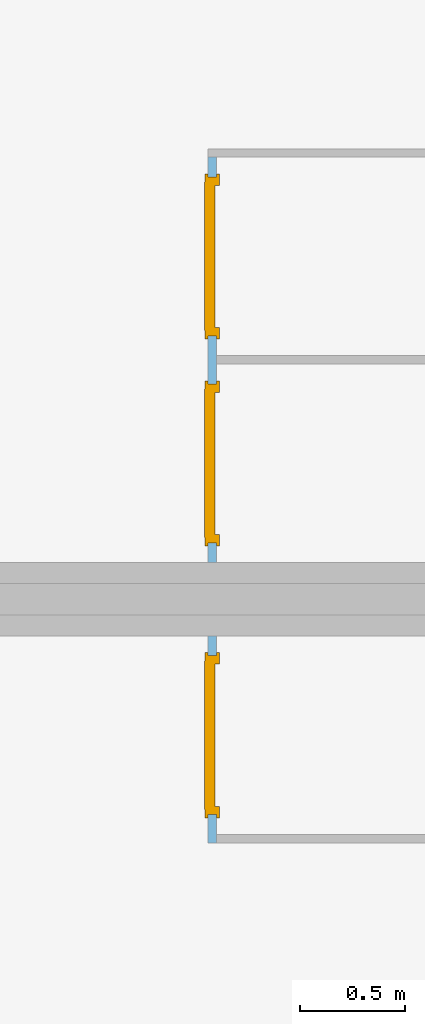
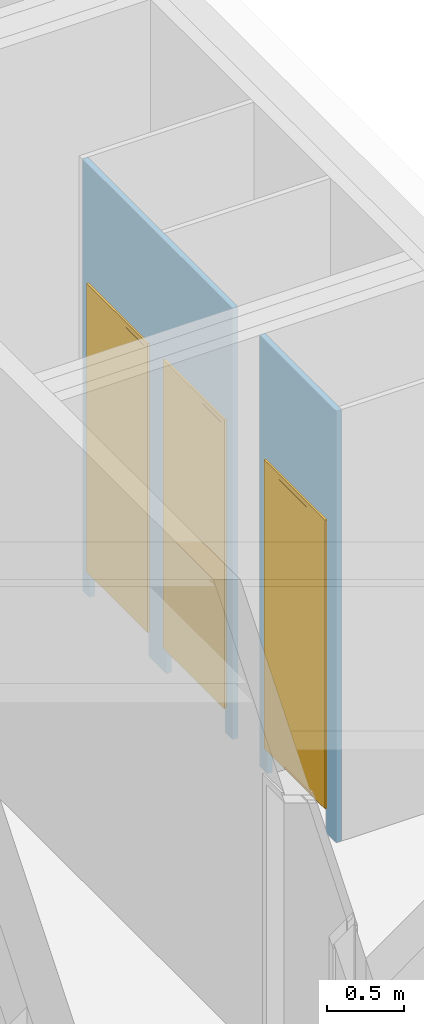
# One storey, part 14 of 23: 3 doors, 3 openings, 2 elements without a shape of their own, plus 2 elements that do not belong to this part.
"""IFC4 building model written with IfcOpenShell, lengths in metres."""

from ifc_helpers import new_model, entity, si_unit, converted_unit, derived_unit, frame, frame_2d, origin, origin_with_axes, place, context, subcontext, project, spatial, polyline, rectangle, outline, extrude, faceted_brep, source, transform, mapped, material, type_object, element, fill, aggregate, save


model = new_model("IFC4")

# Units and contexts
model_context = context("Model", 3, precision=1e-05, world=origin())
body_context = subcontext(model_context, "Body", "Model", "MODEL_VIEW")
ifc_project = project(units=[si_unit("LENGTHUNIT", "METRE"), si_unit("AREAUNIT", "SQUARE_METRE"), si_unit("VOLUMEUNIT", "CUBIC_METRE"), si_unit("MASSUNIT", "GRAM", prefix="KILO"), converted_unit("PLANEANGLEUNIT", "DEGREE", entity("IfcPlaneAngleMeasure", 0.0174532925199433), si_unit("PLANEANGLEUNIT", "RADIAN"), dimensions=[0, 0, 0, 0, 0, 0, 0]), derived_unit("THERMALTRANSMITTANCEUNIT", [(si_unit("POWERUNIT", "WATT"), 1), (si_unit("THERMODYNAMICTEMPERATUREUNIT", "KELVIN"), -1), (si_unit("LENGTHUNIT", "METRE"), -2)]), derived_unit("VOLUMETRICFLOWRATEUNIT", [(si_unit("LENGTHUNIT", "METRE"), 3), (converted_unit("TIMEUNIT", "hour", entity("IfcTimeMeasure", 3600.0), si_unit("TIMEUNIT", "SECOND"), dimensions=[0, 0, 1, 0, 0, 0, 0]), -1), (si_unit("LENGTHUNIT", "METRE"), -1)])], contexts=[model_context])

# Site, building, storey
site_placement = place(None, origin())
site = spatial("IfcSite", under=ifc_project, at=site_placement, Name="Psychiatrie Neubau Wunstorf", CompositionType="ELEMENT")
building_placement = place(site_placement, origin())
building = spatial("IfcBuilding", under=site, at=building_placement, Name="Neubau H1 Sozialzentrum", CompositionType="ELEMENT")
storey_placement = place(building_placement, frame((0.0, 0.0, 0.7)))
storey = spatial("IfcBuildingStorey", under=building, at=storey_placement, Name="H1 Ebene 0", CompositionType="ELEMENT", Elevation=0.7)

# Wall, openings, doors
ifc_material_1 = material(Name="WI-LB")
wall_1_placement = place(storey_placement, frame((-1.70099824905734, 19.8022463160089, 0.0), z_axis=(0.0, 0.0, 1.0), x_axis=(0.0, -1.0, 0.0)))
wall_1 = element("IfcWall", 1, at=wall_1_placement, inside=storey, material=ifc_material_1, context=body_context, shape_type="SweptSolid", body=[
    extrude(rectangle(XDim=1.94, YDim=0.04, at=frame_2d((0.97, 0.02), x_axis=(1.0, 0.0))), origin_with_axes(), (0.0, 0.0, 1.0), 3.4),
])
opening_1_placement = place(wall_1_placement, frame((1.845, 0.04, 0.0), z_axis=(0.0, -1.0, 0.0), x_axis=(0.0, 0.0, 1.0)))
opening_1 = element("IfcOpeningElement", 2, at=opening_1_placement, cuts=wall_1, Name="Türöffnung", ObjectType="Opening", context=body_context, shape_type="SweptSolid", body=[
    extrude(outline(polyline([(2.46, 0.76), (2.46, 0.0), (0.0, 0.0), (0.0, 0.76), (2.46, 0.76)])), origin_with_axes(), (0.0, 0.0, 1.0), 0.04),
])
opening_2_placement = place(wall_1_placement, frame((0.855, 0.04, 0.0), z_axis=(0.0, -1.0, 0.0), x_axis=(0.0, 0.0, 1.0)))
opening_2 = element("IfcOpeningElement", 3, at=opening_2_placement, cuts=wall_1, Name="Türöffnung", ObjectType="Opening", context=body_context, shape_type="SweptSolid", body=[
    extrude(outline(polyline([(2.46, 0.76), (2.46, 0.0), (0.0, 0.0), (0.0, 0.76), (2.46, 0.76)])), origin_with_axes(), (0.0, 0.0, 1.0), 0.04),
])
ifc_material_2 = material(Name="TI-1F-UZ-ZK")
door_type_1 = type_object("IfcDoorType", Name="SMT", OperationType="SINGLE_SWING_RIGHT", ParameterTakesPrecedence=False, PredefinedType="DOOR")
shared_shape_1 = source(origin_with_axes(), body_context, "Body", "Brep", [
    faceted_brep([(0.0, -0.0150000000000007, 2.46), (0.0399999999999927, -0.0150000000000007, 2.46), (0.0399999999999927, -0.0150000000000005, 0.2), (0.0, -0.0150000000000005, 0.2), (0.0, 0.0549999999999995, 0.2), (0.0399999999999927, 0.0549999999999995, 0.2), (0.0399999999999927, 0.0549999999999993, 2.46), (0.0, 0.0549999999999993, 2.46)], [[[0, 1, 2, 3]], [[4, 5, 6, 7]], [[3, 4, 7, 0]], [[2, 5, 4, 3]], [[1, 6, 5, 2]], [[0, 7, 6, 1]]], orient=[[False], [False], [False], [False], [False], [False]]),
    faceted_brep([(0.0, -0.0150000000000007, 2.475), (0.0, -0.0150000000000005, 0.2), (-0.0150000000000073, -0.0150000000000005, 0.2), (-0.0150000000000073, -0.0150000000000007, 2.475), (0.0, 0.0, 0.2), (0.0, 0.0, 2.475), (-0.0150000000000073, 0.0, 2.475), (-0.0150000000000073, 0.0, 0.2)], [[[0, 1, 2, 3]], [[4, 5, 6, 7]], [[1, 0, 5, 4]], [[2, 1, 4, 7]], [[3, 2, 7, 6]], [[0, 3, 6, 5]]], orient=[[False], [False], [False], [False], [False], [False]]),
    faceted_brep([(0.0, 0.0399999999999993, 2.475), (0.0, 0.0399999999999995, 0.2), (-0.0150000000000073, 0.0399999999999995, 0.2), (-0.0150000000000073, 0.0399999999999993, 2.475), (0.0, 0.0549999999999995, 0.2), (0.0, 0.0549999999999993, 2.475), (-0.0150000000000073, 0.0549999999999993, 2.475), (-0.0150000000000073, 0.0549999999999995, 0.2)], [[[0, 1, 2, 3]], [[4, 5, 6, 7]], [[1, 0, 5, 4]], [[2, 1, 4, 7]], [[3, 2, 7, 6]], [[0, 3, 6, 5]]], orient=[[False], [False], [False], [False], [False], [False]]),
    faceted_brep([(0.719999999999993, -0.0150000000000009, 2.46), (0.759999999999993, -0.0150000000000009, 2.46), (0.759999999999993, -0.0150000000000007, 0.2), (0.719999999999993, -0.0150000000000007, 0.2), (0.719999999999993, 0.0549999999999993, 0.2), (0.759999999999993, 0.0549999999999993, 0.2), (0.759999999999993, 0.0549999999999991, 2.46), (0.719999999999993, 0.0549999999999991, 2.46)], [[[0, 1, 2, 3]], [[4, 5, 6, 7]], [[3, 4, 7, 0]], [[2, 5, 4, 3]], [[1, 6, 5, 2]], [[0, 7, 6, 1]]], orient=[[False], [False], [False], [False], [False], [False]]),
    faceted_brep([(0.759999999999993, -0.0150000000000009, 2.475), (0.774999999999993, -0.0150000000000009, 2.475), (0.774999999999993, -0.0150000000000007, 0.2), (0.759999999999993, -0.0150000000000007, 0.2), (0.759999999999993, 0.0, 0.2), (0.774999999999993, 0.0, 0.2), (0.774999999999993, 0.0, 2.475), (0.759999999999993, 0.0, 2.475)], [[[0, 1, 2, 3]], [[4, 5, 6, 7]], [[3, 4, 7, 0]], [[2, 5, 4, 3]], [[1, 6, 5, 2]], [[0, 7, 6, 1]]], orient=[[False], [False], [False], [False], [False], [False]]),
    faceted_brep([(0.759999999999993, 0.0399999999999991, 2.475), (0.774999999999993, 0.0399999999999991, 2.475), (0.774999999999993, 0.0399999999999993, 0.2), (0.759999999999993, 0.0399999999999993, 0.2), (0.759999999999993, 0.0549999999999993, 0.2), (0.774999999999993, 0.0549999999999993, 0.2), (0.774999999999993, 0.0549999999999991, 2.475), (0.759999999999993, 0.0549999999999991, 2.475)], [[[0, 1, 2, 3]], [[4, 5, 6, 7]], [[3, 4, 7, 0]], [[2, 5, 4, 3]], [[1, 6, 5, 2]], [[0, 7, 6, 1]]], orient=[[False], [False], [False], [False], [False], [False]]),
    faceted_brep([(0.0399999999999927, -0.0150000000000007, 2.46), (0.719999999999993, -0.0150000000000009, 2.46), (0.719999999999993, -0.0150000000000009, 2.42), (0.0399999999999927, -0.0150000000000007, 2.42), (0.0399999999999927, 0.0549999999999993, 2.42), (0.719999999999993, 0.0549999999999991, 2.42), (0.719999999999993, 0.0549999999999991, 2.46), (0.0399999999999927, 0.0549999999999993, 2.46)], [[[0, 1, 2, 3]], [[4, 5, 6, 7]], [[3, 4, 7, 0]], [[2, 5, 4, 3]], [[1, 6, 5, 2]], [[0, 7, 6, 1]]], orient=[[False], [False], [False], [False], [False], [False]]),
    faceted_brep([(0.0, -0.0150000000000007, 2.475), (0.759999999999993, -0.0150000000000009, 2.475), (0.759999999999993, -0.0150000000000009, 2.46), (0.0, -0.0150000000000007, 2.46), (0.0, 0.0, 2.46), (0.759999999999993, 0.0, 2.46), (0.759999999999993, 0.0, 2.475), (0.0, 0.0, 2.475)], [[[0, 1, 2, 3]], [[4, 5, 6, 7]], [[3, 4, 7, 0]], [[2, 5, 4, 3]], [[1, 6, 5, 2]], [[0, 7, 6, 1]]], orient=[[False], [False], [False], [False], [False], [False]]),
    faceted_brep([(0.0, 0.0399999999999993, 2.475), (0.759999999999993, 0.0399999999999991, 2.475), (0.759999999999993, 0.0399999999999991, 2.46), (0.0, 0.0399999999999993, 2.46), (0.0, 0.0549999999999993, 2.46), (0.759999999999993, 0.0549999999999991, 2.46), (0.759999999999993, 0.0549999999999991, 2.475), (0.0, 0.0549999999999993, 2.475)], [[[0, 1, 2, 3]], [[4, 5, 6, 7]], [[3, 4, 7, 0]], [[2, 5, 4, 3]], [[1, 6, 5, 2]], [[0, 7, 6, 1]]], orient=[[False], [False], [False], [False], [False], [False]]),
    faceted_brep([(0.0249999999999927, 0.00599999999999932, 2.435), (0.734999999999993, 0.00599999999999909, 2.435), (0.734999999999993, 0.00599999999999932, 0.2), (0.0249999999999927, 0.00599999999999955, 0.2), (0.0249999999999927, 0.0559999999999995, 0.2), (0.734999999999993, 0.0559999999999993, 0.2), (0.734999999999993, 0.0559999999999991, 2.435), (0.0249999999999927, 0.0559999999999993, 2.435)], [[[0, 1, 2, 3]], [[4, 5, 6, 7]], [[3, 4, 7, 0]], [[2, 5, 4, 3]], [[1, 6, 5, 2]], [[0, 7, 6, 1]]], orient=[[False], [False], [False], [False], [False], [False]]),
])
door_1_placement = place(opening_1_placement, frame((0.0, 0.0, 0.0), z_axis=(1.0, 0.0, 0.0), x_axis=(0.0, 1.0, 0.0)))
door_1 = element("IfcDoor", 4, at=door_1_placement, inside=storey, type_object=door_type_1, material=ifc_material_2, Name="SMT", OverallHeight=2.46, OverallWidth=0.76, context=body_context, shape_type="MappedRepresentation", body=[
    mapped(shared_shape_1, transform((0.0, 0.0, 0.0), x_axis=(1.0, 0.0, 0.0), y_axis=(0.0, 1.0, 0.0), z_axis=(0.0, 0.0, 1.0), scale=1.0)),
])
fill(opening_1, door_1)
ifc_material_3 = material(Name="TI-1F-UZ-ZK")
door_type_2 = type_object("IfcDoorType", Name="SMT", OperationType="SINGLE_SWING_RIGHT", ParameterTakesPrecedence=False, PredefinedType="DOOR")
shared_shape_2 = source(origin_with_axes(), body_context, "Body", "Brep", [
    faceted_brep([(0.0, -0.0150000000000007, 2.46), (0.0399999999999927, -0.0150000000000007, 2.46), (0.0399999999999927, -0.0150000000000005, 0.2), (0.0, -0.0150000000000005, 0.2), (0.0, 0.0549999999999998, 0.2), (0.0399999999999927, 0.0549999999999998, 0.2), (0.0399999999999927, 0.0549999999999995, 2.46), (0.0, 0.0549999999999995, 2.46)], [[[0, 1, 2, 3]], [[4, 5, 6, 7]], [[3, 4, 7, 0]], [[2, 5, 4, 3]], [[1, 6, 5, 2]], [[0, 7, 6, 1]]], orient=[[False], [False], [False], [False], [False], [False]]),
    faceted_brep([(0.0, -0.0150000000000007, 2.475), (0.0, -0.0150000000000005, 0.2), (-0.0150000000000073, -0.0150000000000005, 0.2), (-0.0150000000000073, -0.0150000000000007, 2.475), (0.0, 0.0, 0.2), (0.0, 0.0, 2.475), (-0.0150000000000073, 0.0, 2.475), (-0.0150000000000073, 0.0, 0.2)], [[[0, 1, 2, 3]], [[4, 5, 6, 7]], [[1, 0, 5, 4]], [[2, 1, 4, 7]], [[3, 2, 7, 6]], [[0, 3, 6, 5]]], orient=[[False], [False], [False], [False], [False], [False]]),
    faceted_brep([(0.0, 0.0399999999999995, 2.475), (0.0, 0.0399999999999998, 0.2), (-0.0150000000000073, 0.0399999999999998, 0.2), (-0.0150000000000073, 0.0399999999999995, 2.475), (0.0, 0.0549999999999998, 0.2), (0.0, 0.0549999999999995, 2.475), (-0.0150000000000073, 0.0549999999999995, 2.475), (-0.0150000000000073, 0.0549999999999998, 0.2)], [[[0, 1, 2, 3]], [[4, 5, 6, 7]], [[1, 0, 5, 4]], [[2, 1, 4, 7]], [[3, 2, 7, 6]], [[0, 3, 6, 5]]], orient=[[False], [False], [False], [False], [False], [False]]),
    faceted_brep([(0.719999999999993, -0.0150000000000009, 2.46), (0.759999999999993, -0.0150000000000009, 2.46), (0.759999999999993, -0.0150000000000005, 0.2), (0.719999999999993, -0.0150000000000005, 0.2), (0.719999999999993, 0.0549999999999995, 0.2), (0.759999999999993, 0.0549999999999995, 0.2), (0.759999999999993, 0.0549999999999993, 2.46), (0.719999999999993, 0.0549999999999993, 2.46)], [[[0, 1, 2, 3]], [[4, 5, 6, 7]], [[3, 4, 7, 0]], [[2, 5, 4, 3]], [[1, 6, 5, 2]], [[0, 7, 6, 1]]], orient=[[False], [False], [False], [False], [False], [False]]),
    faceted_brep([(0.759999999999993, -0.0150000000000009, 2.475), (0.774999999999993, -0.0150000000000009, 2.475), (0.774999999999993, -0.0150000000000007, 0.2), (0.759999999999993, -0.0150000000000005, 0.2), (0.759999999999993, 0.0, 0.2), (0.774999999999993, 0.0, 0.2), (0.774999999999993, 0.0, 2.475), (0.759999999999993, 0.0, 2.475)], [[[0, 1, 2, 3]], [[4, 5, 6, 7]], [[3, 4, 7, 0]], [[2, 5, 4, 3]], [[1, 6, 5, 2]], [[0, 7, 6, 1]]], orient=[[False], [False], [False], [False], [False], [False]]),
    faceted_brep([(0.759999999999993, 0.0399999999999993, 2.475), (0.774999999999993, 0.0399999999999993, 2.475), (0.774999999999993, 0.0399999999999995, 0.2), (0.759999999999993, 0.0399999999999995, 0.2), (0.759999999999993, 0.0549999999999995, 0.2), (0.774999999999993, 0.0549999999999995, 0.2), (0.774999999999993, 0.0549999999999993, 2.475), (0.759999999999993, 0.0549999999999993, 2.475)], [[[0, 1, 2, 3]], [[4, 5, 6, 7]], [[3, 4, 7, 0]], [[2, 5, 4, 3]], [[1, 6, 5, 2]], [[0, 7, 6, 1]]], orient=[[False], [False], [False], [False], [False], [False]]),
    faceted_brep([(0.0399999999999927, -0.0150000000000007, 2.46), (0.719999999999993, -0.0150000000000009, 2.46), (0.719999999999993, -0.0150000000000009, 2.42), (0.0399999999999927, -0.0150000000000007, 2.42), (0.0399999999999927, 0.0549999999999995, 2.42), (0.719999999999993, 0.0549999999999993, 2.42), (0.719999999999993, 0.0549999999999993, 2.46), (0.0399999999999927, 0.0549999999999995, 2.46)], [[[0, 1, 2, 3]], [[4, 5, 6, 7]], [[3, 4, 7, 0]], [[2, 5, 4, 3]], [[1, 6, 5, 2]], [[0, 7, 6, 1]]], orient=[[False], [False], [False], [False], [False], [False]]),
    faceted_brep([(0.0, -0.0150000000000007, 2.475), (0.759999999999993, -0.0150000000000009, 2.475), (0.759999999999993, -0.0150000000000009, 2.46), (0.0, -0.0150000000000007, 2.46), (0.0, 0.0, 2.46), (0.759999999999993, 0.0, 2.46), (0.759999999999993, 0.0, 2.475), (0.0, 0.0, 2.475)], [[[0, 1, 2, 3]], [[4, 5, 6, 7]], [[3, 4, 7, 0]], [[2, 5, 4, 3]], [[1, 6, 5, 2]], [[0, 7, 6, 1]]], orient=[[False], [False], [False], [False], [False], [False]]),
    faceted_brep([(0.0, 0.0399999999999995, 2.475), (0.759999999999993, 0.0399999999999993, 2.475), (0.759999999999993, 0.0399999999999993, 2.46), (0.0, 0.0399999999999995, 2.46), (0.0, 0.0549999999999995, 2.46), (0.759999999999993, 0.0549999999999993, 2.46), (0.759999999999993, 0.0549999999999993, 2.475), (0.0, 0.0549999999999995, 2.475)], [[[0, 1, 2, 3]], [[4, 5, 6, 7]], [[3, 4, 7, 0]], [[2, 5, 4, 3]], [[1, 6, 5, 2]], [[0, 7, 6, 1]]], orient=[[False], [False], [False], [False], [False], [False]]),
    faceted_brep([(0.0249999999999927, 0.00599999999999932, 2.435), (0.734999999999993, 0.00599999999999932, 2.435), (0.734999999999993, 0.00599999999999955, 0.2), (0.0249999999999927, 0.00599999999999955, 0.2), (0.0249999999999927, 0.0559999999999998, 0.2), (0.734999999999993, 0.0559999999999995, 0.2), (0.734999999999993, 0.0559999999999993, 2.435), (0.0249999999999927, 0.0559999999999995, 2.435)], [[[0, 1, 2, 3]], [[4, 5, 6, 7]], [[3, 4, 7, 0]], [[2, 5, 4, 3]], [[1, 6, 5, 2]], [[0, 7, 6, 1]]], orient=[[False], [False], [False], [False], [False], [False]]),
])
door_2_placement = place(opening_2_placement, frame((0.0, 0.0, 0.0), z_axis=(1.0, 0.0, 0.0), x_axis=(0.0, 1.0, 0.0)))
door_2 = element("IfcDoor", 5, at=door_2_placement, inside=storey, type_object=door_type_2, material=ifc_material_3, Name="SMT", OverallHeight=2.46, OverallWidth=0.76, context=body_context, shape_type="MappedRepresentation", body=[
    mapped(shared_shape_2, transform((0.0, 0.0, 0.0), x_axis=(1.0, 0.0, 0.0), y_axis=(0.0, 1.0, 0.0), z_axis=(0.0, 0.0, 1.0), scale=1.0)),
])
fill(opening_2, door_2)

# Assemblies, wall, opening, door
assembly_1_placement = place(storey_placement, frame((0.0, 0.0, -0.7)))
assembly_1 = element("IfcElementAssembly", 6, at=assembly_1_placement, inside=storey, PredefinedType="NOTDEFINED")
assembly_2_placement = place(assembly_1_placement, origin())
assembly_2 = element("IfcElementAssembly", 7, at=assembly_2_placement, Name="Innenwand 1-Schalig", PredefinedType="NOTDEFINED")
aggregate(assembly_1, [assembly_2])
ifc_material_4 = material(Name="WI-LB")
wall_2_placement = place(assembly_1_placement, frame((-1.70099824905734, 17.5122463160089, 0.7), z_axis=(0.0, 0.0, 1.0), x_axis=(0.0, -1.0, 0.0)))
wall_2 = element("IfcWall", 8, at=wall_2_placement, material=ifc_material_4, context=body_context, shape_type="SweptSolid", body=[
    extrude(rectangle(XDim=0.99, YDim=0.04, at=frame_2d((0.495, 0.02), x_axis=(1.0, 0.0))), origin_with_axes(), (0.0, 0.0, 1.0), 3.4),
])
opening_3_placement = place(wall_2_placement, frame((0.855, 0.04, 0.0), z_axis=(0.0, -1.0, 0.0), x_axis=(0.0, 0.0, 1.0)))
opening_3 = element("IfcOpeningElement", 9, at=opening_3_placement, cuts=wall_2, Name="Türöffnung", ObjectType="Opening", context=body_context, shape_type="SweptSolid", body=[
    extrude(outline(polyline([(2.46, 0.76), (2.46, 0.0), (0.0, 0.0), (0.0, 0.76), (2.46, 0.76)])), origin_with_axes(), (0.0, 0.0, 1.0), 0.04),
])
ifc_material_5 = material(Name="TI-1F-UZ-ZK")
door_type_3 = type_object("IfcDoorType", Name="SMT", OperationType="SINGLE_SWING_RIGHT", ParameterTakesPrecedence=False, PredefinedType="DOOR")
shared_shape_3 = source(origin_with_axes(), body_context, "Body", "Brep", [
    faceted_brep([(0.759999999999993, -0.0150000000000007, 2.46), (0.759999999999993, -0.0150000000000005, 0.2), (0.719999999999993, -0.0150000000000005, 0.2), (0.719999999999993, -0.0150000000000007, 2.46), (0.759999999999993, 0.0549999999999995, 0.2), (0.759999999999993, 0.0549999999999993, 2.46), (0.719999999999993, 0.0549999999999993, 2.46), (0.719999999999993, 0.0549999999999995, 0.2)], [[[0, 1, 2, 3]], [[4, 5, 6, 7]], [[1, 0, 5, 4]], [[2, 1, 4, 7]], [[3, 2, 7, 6]], [[0, 3, 6, 5]]], orient=[[False], [False], [False], [False], [False], [False]]),
    faceted_brep([(0.759999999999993, -0.0150000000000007, 2.475), (0.774999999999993, -0.0150000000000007, 2.475), (0.774999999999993, -0.0150000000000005, 0.2), (0.759999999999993, -0.0150000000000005, 0.2), (0.759999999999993, 0.0, 0.2), (0.774999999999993, 0.0, 0.2), (0.774999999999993, 0.0, 2.475), (0.759999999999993, 0.0, 2.475)], [[[0, 1, 2, 3]], [[4, 5, 6, 7]], [[3, 4, 7, 0]], [[2, 5, 4, 3]], [[1, 6, 5, 2]], [[0, 7, 6, 1]]], orient=[[False], [False], [False], [False], [False], [False]]),
    faceted_brep([(0.759999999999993, 0.0399999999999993, 2.475), (0.774999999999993, 0.0399999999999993, 2.475), (0.774999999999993, 0.0399999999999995, 0.2), (0.759999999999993, 0.0399999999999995, 0.2), (0.759999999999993, 0.0549999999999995, 0.2), (0.774999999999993, 0.0549999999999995, 0.2), (0.774999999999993, 0.0549999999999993, 2.475), (0.759999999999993, 0.0549999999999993, 2.475)], [[[0, 1, 2, 3]], [[4, 5, 6, 7]], [[3, 4, 7, 0]], [[2, 5, 4, 3]], [[1, 6, 5, 2]], [[0, 7, 6, 1]]], orient=[[False], [False], [False], [False], [False], [False]]),
    faceted_brep([(0.0399999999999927, -0.0150000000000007, 2.46), (0.0399999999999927, -0.0150000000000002, 0.2), (0.0, -0.0150000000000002, 0.2), (0.0, -0.0150000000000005, 2.46), (0.0399999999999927, 0.0549999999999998, 0.2), (0.0399999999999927, 0.0549999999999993, 2.46), (0.0, 0.0549999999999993, 2.46), (0.0, 0.0549999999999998, 0.2)], [[[0, 1, 2, 3]], [[4, 5, 6, 7]], [[1, 0, 5, 4]], [[2, 1, 4, 7]], [[3, 2, 7, 6]], [[0, 3, 6, 5]]], orient=[[False], [False], [False], [False], [False], [False]]),
    faceted_brep([(0.0, -0.0150000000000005, 2.475), (0.0, -0.0150000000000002, 0.2), (-0.0150000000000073, -0.0150000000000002, 0.2), (-0.0150000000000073, -0.0150000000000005, 2.475), (0.0, 0.0, 0.2), (0.0, 0.0, 2.475), (-0.0150000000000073, 0.0, 2.475), (-0.0150000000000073, 0.0, 0.2)], [[[0, 1, 2, 3]], [[4, 5, 6, 7]], [[1, 0, 5, 4]], [[2, 1, 4, 7]], [[3, 2, 7, 6]], [[0, 3, 6, 5]]], orient=[[False], [False], [False], [False], [False], [False]]),
    faceted_brep([(0.0, 0.0399999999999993, 2.475), (0.0, 0.0399999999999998, 0.2), (-0.0150000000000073, 0.0399999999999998, 0.2), (-0.0150000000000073, 0.0399999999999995, 2.475), (0.0, 0.0549999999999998, 0.2), (0.0, 0.0549999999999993, 2.475), (-0.0150000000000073, 0.0549999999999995, 2.475), (-0.0150000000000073, 0.0549999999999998, 0.2)], [[[0, 1, 2, 3]], [[4, 5, 6, 7]], [[1, 0, 5, 4]], [[2, 1, 4, 7]], [[3, 2, 7, 6]], [[0, 3, 6, 5]]], orient=[[False], [False], [False], [False], [False], [False]]),
    faceted_brep([(0.719999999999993, -0.0150000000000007, 2.46), (0.719999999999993, -0.0150000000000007, 2.42), (0.0399999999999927, -0.0150000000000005, 2.42), (0.0399999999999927, -0.0150000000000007, 2.46), (0.719999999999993, 0.0549999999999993, 2.42), (0.719999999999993, 0.0549999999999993, 2.46), (0.0399999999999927, 0.0549999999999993, 2.46), (0.0399999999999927, 0.0549999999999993, 2.42)], [[[0, 1, 2, 3]], [[4, 5, 6, 7]], [[1, 0, 5, 4]], [[2, 1, 4, 7]], [[3, 2, 7, 6]], [[0, 3, 6, 5]]], orient=[[False], [False], [False], [False], [False], [False]]),
    faceted_brep([(0.759999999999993, -0.0150000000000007, 2.475), (0.759999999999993, -0.0150000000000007, 2.46), (0.0, -0.0150000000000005, 2.46), (0.0, -0.0150000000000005, 2.475), (0.759999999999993, 0.0, 2.46), (0.759999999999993, 0.0, 2.475), (0.0, 0.0, 2.475), (0.0, 0.0, 2.46)], [[[0, 1, 2, 3]], [[4, 5, 6, 7]], [[1, 0, 5, 4]], [[2, 1, 4, 7]], [[3, 2, 7, 6]], [[0, 3, 6, 5]]], orient=[[False], [False], [False], [False], [False], [False]]),
    faceted_brep([(0.759999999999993, 0.0399999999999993, 2.475), (0.759999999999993, 0.0399999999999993, 2.46), (0.0, 0.0399999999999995, 2.46), (0.0, 0.0399999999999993, 2.475), (0.759999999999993, 0.0549999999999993, 2.46), (0.759999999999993, 0.0549999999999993, 2.475), (0.0, 0.0549999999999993, 2.475), (0.0, 0.0549999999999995, 2.46)], [[[0, 1, 2, 3]], [[4, 5, 6, 7]], [[1, 0, 5, 4]], [[2, 1, 4, 7]], [[3, 2, 7, 6]], [[0, 3, 6, 5]]], orient=[[False], [False], [False], [False], [False], [False]]),
    faceted_brep([(0.734999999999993, 0.00599999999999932, 2.435), (0.734999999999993, 0.00599999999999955, 0.2), (0.0249999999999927, 0.00599999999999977, 0.2), (0.0249999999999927, 0.00599999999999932, 2.435), (0.734999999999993, 0.0559999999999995, 0.2), (0.734999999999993, 0.0559999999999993, 2.435), (0.0249999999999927, 0.0559999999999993, 2.435), (0.0249999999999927, 0.0559999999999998, 0.2)], [[[0, 1, 2, 3]], [[4, 5, 6, 7]], [[1, 0, 5, 4]], [[2, 1, 4, 7]], [[3, 2, 7, 6]], [[0, 3, 6, 5]]], orient=[[False], [False], [False], [False], [False], [False]]),
])
door_3_placement = place(opening_3_placement, frame((0.0, 0.0, 0.0), z_axis=(1.0, 0.0, 0.0), x_axis=(0.0, 1.0, 0.0)))
door_3 = element("IfcDoor", 10, at=door_3_placement, type_object=door_type_3, material=ifc_material_5, Name="SMT", OverallHeight=2.46, OverallWidth=0.76, context=body_context, shape_type="MappedRepresentation", body=[
    mapped(shared_shape_3, transform((0.0, 0.0, 0.0), x_axis=(1.0, 0.0, 0.0), y_axis=(0.0, 1.0, 0.0), z_axis=(0.0, 0.0, 1.0), scale=1.0)),
])
fill(opening_3, door_3)
aggregate(assembly_2, [wall_2, door_3])

save(model, "model.ifc")
